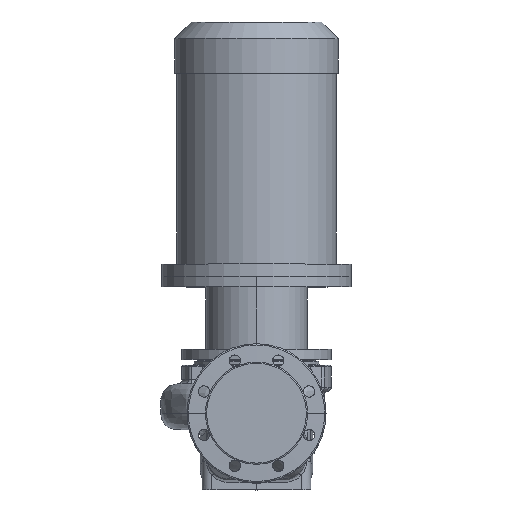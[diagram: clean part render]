
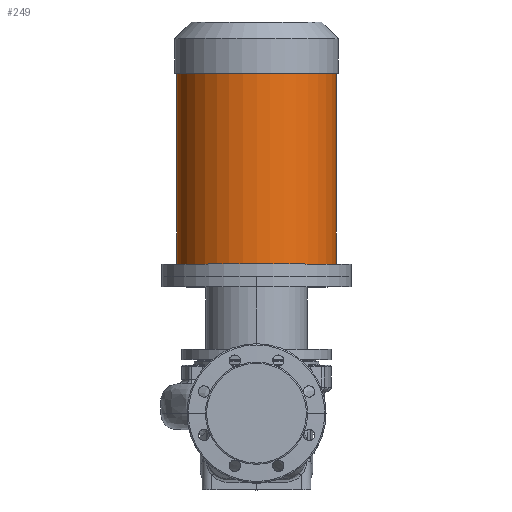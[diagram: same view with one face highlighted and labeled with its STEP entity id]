
A CAD part, top view. The second image highlights one B-rep face of the part: STEP entity #249.
In plain terms, the highlighted cylindrical face has radius 126.5 mm (diameter 253 mm), a partial arc.
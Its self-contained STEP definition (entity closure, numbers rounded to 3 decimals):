
#249 = ADVANCED_FACE ( 'NONE', ( #13548 ), #25249, .T. ) ;
#608 = CARTESIAN_POINT ( 'NONE',  ( 0., 216.3, 0. ) ) ;
#1271 = VERTEX_POINT ( 'NONE', #34292 ) ;
#1883 = ORIENTED_EDGE ( 'NONE', *, *, #46309, .T. ) ;
#2363 = EDGE_LOOP ( 'NONE', ( #43677, #45046, #1883, #35832 ) ) ;
#3166 = CARTESIAN_POINT ( 'NONE',  ( 126.5, 216.3, 0. ) ) ;
#4790 = DIRECTION ( 'NONE',  ( 0., -1., 0. ) ) ;
#6632 = CARTESIAN_POINT ( 'NONE',  ( -126.5, 216.3, 0. ) ) ;
#7850 = VECTOR ( 'NONE', #42496, 1000. ) ;
#8897 = VERTEX_POINT ( 'NONE', #8942 ) ;
#8942 = CARTESIAN_POINT ( 'NONE',  ( -126.5, 236.3, 0. ) ) ;
#9643 = EDGE_CURVE ( 'NONE', #1271, #46899, #21423, .T. ) ;
#10385 = DIRECTION ( 'NONE',  ( -1., 0., 0. ) ) ;
#13548 = FACE_OUTER_BOUND ( 'NONE', #2363, .T. ) ;
#17692 = DIRECTION ( 'NONE',  ( -1., 0., 0. ) ) ;
#19355 = AXIS2_PLACEMENT_3D ( 'NONE', #53202, #4790, #17692 ) ;
#21423 = CIRCLE ( 'NONE', #51762, 126.5 ) ;
#22491 = VECTOR ( 'NONE', #37991, 1000. ) ;
#23517 = CARTESIAN_POINT ( 'NONE',  ( 0., 538.3, 0. ) ) ;
#25249 = CYLINDRICAL_SURFACE ( 'NONE', #41014, 126.5 ) ;
#27203 = DIRECTION ( 'NONE',  ( 0., -1., 0. ) ) ;
#27921 = DIRECTION ( 'NONE',  ( 0., -1., 0. ) ) ;
#28094 = CIRCLE ( 'NONE', #19355, 126.5 ) ;
#28152 = CARTESIAN_POINT ( 'NONE',  ( 126.5, 236.3, 0. ) ) ;
#34292 = CARTESIAN_POINT ( 'NONE',  ( 126.5, 538.3, 0. ) ) ;
#35668 = VERTEX_POINT ( 'NONE', #28152 ) ;
#35832 = ORIENTED_EDGE ( 'NONE', *, *, #56228, .F. ) ;
#37991 = DIRECTION ( 'NONE',  ( 0., -1., 0. ) ) ;
#41014 = AXIS2_PLACEMENT_3D ( 'NONE', #608, #27203, #52437 ) ;
#42496 = DIRECTION ( 'NONE',  ( 0., -1., 0. ) ) ;
#43677 = ORIENTED_EDGE ( 'NONE', *, *, #52566, .F. ) ;
#45046 = ORIENTED_EDGE ( 'NONE', *, *, #9643, .T. ) ;
#45238 = LINE ( 'NONE', #6632, #22491 ) ;
#46309 = EDGE_CURVE ( 'NONE', #46899, #8897, #45238, .T. ) ;
#46899 = VERTEX_POINT ( 'NONE', #48750 ) ;
#48750 = CARTESIAN_POINT ( 'NONE',  ( -126.5, 538.3, 0. ) ) ;
#49903 = LINE ( 'NONE', #3166, #7850 ) ;
#51762 = AXIS2_PLACEMENT_3D ( 'NONE', #23517, #27921, #10385 ) ;
#52437 = DIRECTION ( 'NONE',  ( -1., 0., 0. ) ) ;
#52566 = EDGE_CURVE ( 'NONE', #1271, #35668, #49903, .T. ) ;
#53202 = CARTESIAN_POINT ( 'NONE',  ( 0., 236.3, 0. ) ) ;
#56228 = EDGE_CURVE ( 'NONE', #35668, #8897, #28094, .T. ) ;
